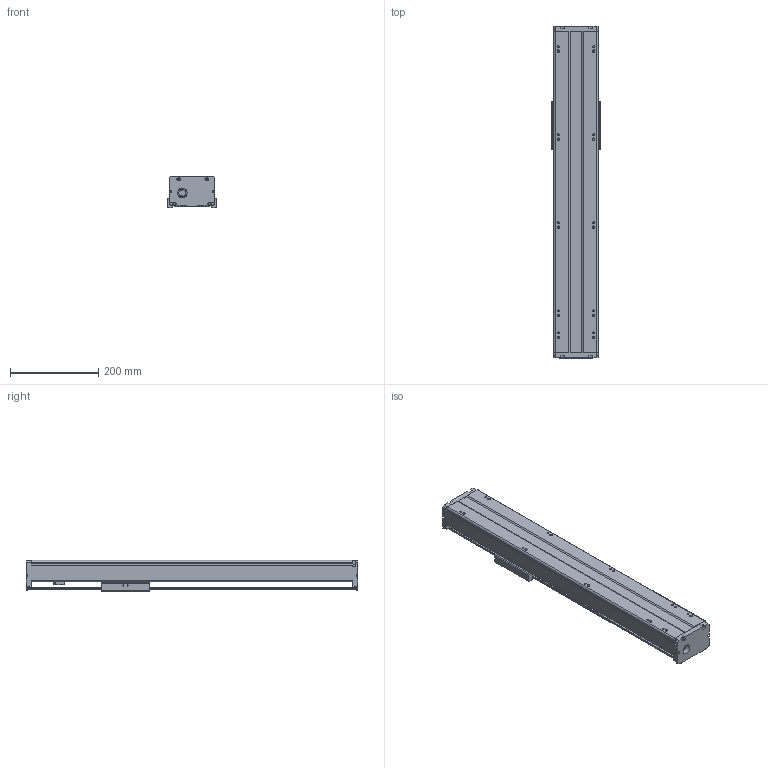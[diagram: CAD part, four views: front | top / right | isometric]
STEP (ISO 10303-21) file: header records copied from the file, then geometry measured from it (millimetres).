
FILE_DESCRIPTION(/* description */ (''),/* implementation_level */ '2;1');
FILE_NAME(/* name */ 'TKA100-500A1F0_asm1.stp',/* time_stamp */ '2017-02-20T16:15:29+08:00',/* author */ (''),/* organization */ (''),/* preprocessor_version */ 'ST-DEVELOPER v15',/* originating_system */ 'SIEMENS PLM Software NX 8.5',/* authorisation */ '');
FILE_SCHEMA (('AUTOMOTIVE_DESIGN { 1 0 10303 214 3 1 1 1 }'));
Length unit declared in the file: millimetre
Products named in the file (3): 200-02; 200-01; TKA100-500A1F0_asm1_stp
Assembly tree (2 placements, depth 2):
  TKA100-500A1F0_asm1_stp
    200-01
    200-02
Bounding box: 110 x 754 x 71 mm (x, y, z)
Volume: 1668149.2 mm3; surface area: 546692.3 mm2
Topology: 2 solids, 8 shells, 685 faces, 1825 edges, 1192 vertices
Faces by surface type: cylinder 267, plane 257, cone 108, torus 27, bspline 26
Full cylindrical faces by diameter (mm): 2.5 x6, 2.6 x8, 3.3 x8, 3.4 x8, 3.8 x4, 4.2 x19, 4.3 x4, 4.5 x4, 5 x1, 5.5 x18, 6.6 x4, 8 x5, 9 x4, 10 x10, 11 x4, 12 x6, 12.05 x2, 15.3 x1, 15.4 x1, 16 x1, 17 x2, 18 x1, 22 x1, 24 x1, 28 x5, 30 x1
Entity records: 25812 total; most frequent: CARTESIAN_POINT 9820, DIRECTION 3263, ORIENTED_EDGE 3056, EDGE_CURVE 1528, AXIS2_PLACEMENT_3D 1305, VERTEX_POINT 1119, EDGE_LOOP 994, ADVANCED_FACE 685
